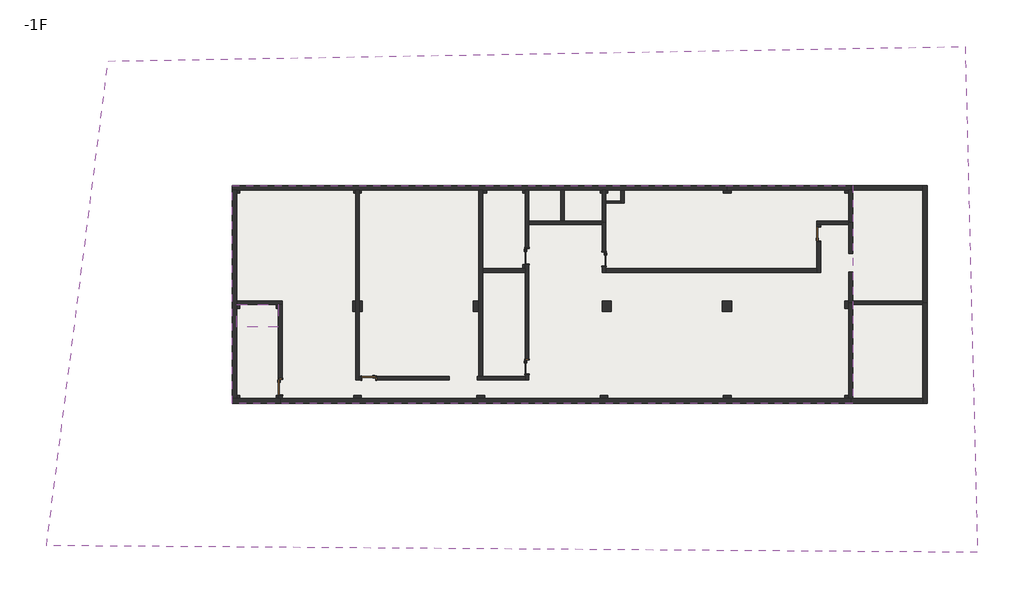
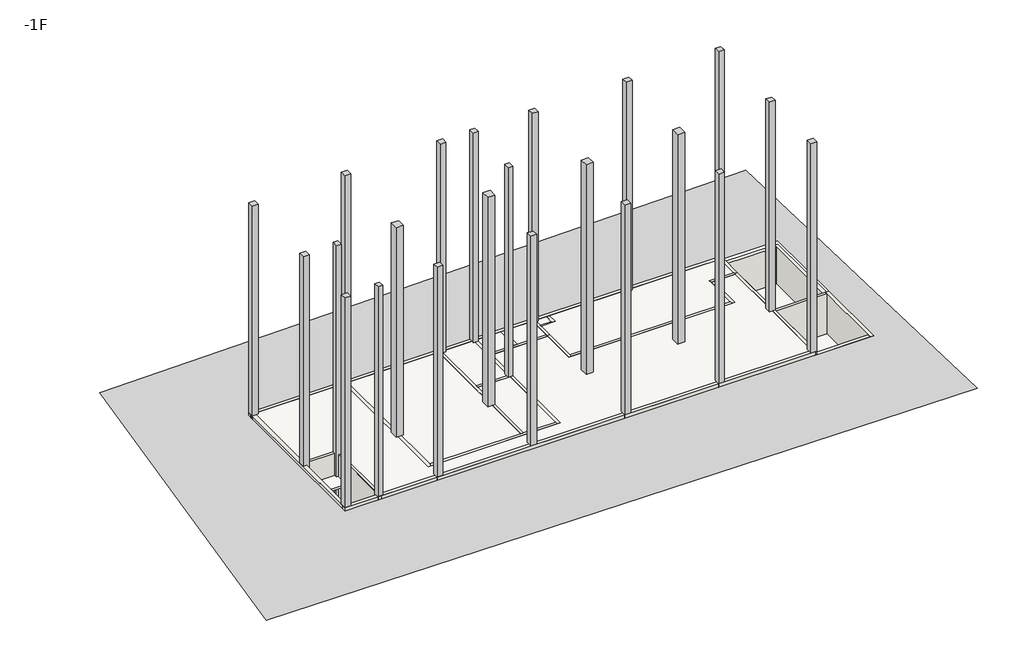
# One storey, incomplete: 29 walls, 22 columns, 6 doors, 3 slabs, 1 proxy.
"""IFC4 building model written with IfcOpenShell, lengths in millimetres."""

from ifc_helpers import new_model, si_unit, frame, origin, place, context, project, spatial, polyline, outline, extrude, faceted_brep, triangles, transform, mapped, element, save
from components import column_400_x_500_mm_eafb277b, column_500_x_500_mm_b83ffd69, column_600_x_700_mm_fc09930c, door_c5165c53, door_39c63271, door_eaa0aaae

model = new_model("IFC4")

# Units and contexts
model_context = context("Model", 3, world=origin())
ifc_project = project(units=[si_unit("LENGTHUNIT", "METRE", prefix="MILLI")], contexts=[model_context])

# Site, building, storey
site = spatial("IfcSite", under=ifc_project)
building = spatial("IfcBuilding", under=site)
storey = spatial("IfcBuildingStorey", under=building, Name="-1F", Elevation=-3900.0)

# Proxy
placement = place(None, origin())
element("IfcBuildingElementProxy", 1, Name="Building Element Proxy", at=placement, inside=storey, context=model_context, shape_type="Tessellation", body=[
    triangles([(-16930.7933075, 16965.0423798, -300.0000023), (-20928.0016479, -14503.8821411, -300.0000023), (39466.1724243, -14939.941571, -300.0000023), (38666.7281982, 17909.8370361, -300.0000023), (36219.5612915, 8888.8696426, -300.0000023), (36219.5612915, 1268.8696426, -300.0000023), (36219.5612915, -5251.1300583, -300.0000023), (31209.5624451, -5251.1300583, -300.0000023), (22339.7061768, -5251.1300583, -300.0000023), (-5760.4379242, -5251.1300583, -300.0000023), (-8880.4381805, -5251.1300583, -300.0000023), (-8880.4381805, 8888.8696426, -300.0000023), (-2654.9173073, 8888.8696426, -300.0000023)], [[2, 10, 11], [10, 2, 9], [2, 11, 12], [1, 12, 13], [12, 1, 2], [1, 13, 4], [8, 3, 7], [3, 8, 9], [7, 3, 6], [4, 13, 5], [4, 5, 6], [6, 3, 4], [3, 9, 2]], closed=False),
])

# Columns
column_400_x_500_mm_shape = column_400_x_500_mm_eafb277b(model_context)
element("IfcColumn", 2, ObjectType="预制-矩形柱 : 400 x 500 mm", at=placement, inside=storey, context=model_context, shape_type="MappedRepresentation", body=[
    mapped(column_400_x_500_mm_shape, transform((-5840.4379116, 1138.8697102, 0.0), x_axis=(1.0, 0.0, 0.0), y_axis=(0.0, 1.0, 0.0), z_axis=(0.0, 0.0, 1.0))),
])
element("IfcColumn", 3, ObjectType="预制-矩形柱 : 400 x 500 mm", at=placement, inside=storey, context=model_context, shape_type="MappedRepresentation", body=[
    mapped(column_400_x_500_mm_shape, transform((-5840.4379116, -5001.1302898, 0.0), x_axis=(1.0, 0.0, 0.0), y_axis=(0.0, 1.0, 0.0), z_axis=(0.0, 0.0, 1.0))),
])
element("IfcColumn", 4, ObjectType="预制-矩形柱 : 400 x 500 mm", at=placement, inside=storey, context=model_context, shape_type="MappedRepresentation", body=[
    mapped(column_400_x_500_mm_shape, transform((10159.5620884, 3498.8697102, 0.0), x_axis=(1.0, 0.0, 0.0), y_axis=(0.0, 1.0, 0.0), z_axis=(0.0, 0.0, 1.0))),
])
element("IfcColumn", 5, ObjectType="预制-矩形柱 : 400 x 500 mm", at=placement, inside=storey, context=model_context, shape_type="MappedRepresentation", body=[
    mapped(column_400_x_500_mm_shape, transform((10159.5620884, 8638.8697102, 0.0), x_axis=(1.0, 0.0, 0.0), y_axis=(0.0, 1.0, 0.0), z_axis=(0.0, 0.0, 1.0))),
])
column_500_x_500_mm_shape = column_500_x_500_mm_b83ffd69(model_context)
element("IfcColumn", 6, ObjectType="预制-矩形柱 : 500 x 500 mm", at=placement, inside=storey, context=model_context, shape_type="MappedRepresentation", body=[
    mapped(column_500_x_500_mm_shape, transform((-8630.4379116, 8638.8697102, 0.0), x_axis=(1.0, 0.0, 0.0), y_axis=(0.0, 1.0, 0.0), z_axis=(0.0, 0.0, 1.0))),
])
element("IfcColumn", 7, ObjectType="预制-矩形柱 : 500 x 500 mm", at=placement, inside=storey, context=model_context, shape_type="MappedRepresentation", body=[
    mapped(column_500_x_500_mm_shape, transform((-8630.4379116, 1138.8697102, 0.0), x_axis=(1.0, 0.0, 0.0), y_axis=(0.0, 1.0, 0.0), z_axis=(0.0, 0.0, 1.0))),
])
element("IfcColumn", 8, ObjectType="预制-矩形柱 : 500 x 500 mm", at=placement, inside=storey, context=model_context, shape_type="MappedRepresentation", body=[
    mapped(column_500_x_500_mm_shape, transform((-8630.4379116, -5001.1302898, 0.0), x_axis=(1.0, 0.0, 0.0), y_axis=(0.0, 1.0, 0.0), z_axis=(0.0, 0.0, 1.0))),
])
element("IfcColumn", 9, ObjectType="预制-矩形柱 : 500 x 500 mm", at=placement, inside=storey, context=model_context, shape_type="MappedRepresentation", body=[
    mapped(column_500_x_500_mm_shape, transform((-760.4379116, 8638.8697102, 0.0), x_axis=(1.0, 0.0, 0.0), y_axis=(0.0, 1.0, 0.0), z_axis=(0.0, 0.0, 1.0))),
])
element("IfcColumn", 10, ObjectType="预制-矩形柱 : 500 x 500 mm", at=placement, inside=storey, context=model_context, shape_type="MappedRepresentation", body=[
    mapped(column_500_x_500_mm_shape, transform((-760.4379116, -5001.1302898, 0.0), x_axis=(1.0, 0.0, 0.0), y_axis=(0.0, 1.0, 0.0), z_axis=(0.0, 0.0, 1.0))),
])
element("IfcColumn", 11, ObjectType="预制-矩形柱 : 500 x 500 mm", at=placement, inside=storey, context=model_context, shape_type="MappedRepresentation", body=[
    mapped(column_500_x_500_mm_shape, transform((7369.5620884, 8638.8697102, 0.0), x_axis=(1.0, 0.0, 0.0), y_axis=(0.0, 1.0, 0.0), z_axis=(0.0, 0.0, 1.0))),
])
element("IfcColumn", 12, ObjectType="预制-矩形柱 : 500 x 500 mm", at=placement, inside=storey, context=model_context, shape_type="MappedRepresentation", body=[
    mapped(column_500_x_500_mm_shape, transform((7239.5620884, -5001.1302898, 0.0), x_axis=(1.0, 0.0, 0.0), y_axis=(0.0, 1.0, 0.0), z_axis=(0.0, 0.0, 1.0))),
])
element("IfcColumn", 13, ObjectType="预制-矩形柱 : 500 x 500 mm", at=placement, inside=storey, context=model_context, shape_type="MappedRepresentation", body=[
    mapped(column_500_x_500_mm_shape, transform((15239.5620884, -5001.1302898, 0.0), x_axis=(1.0, 0.0, 0.0), y_axis=(0.0, 1.0, 0.0), z_axis=(0.0, 0.0, 1.0))),
])
element("IfcColumn", 14, ObjectType="预制-矩形柱 : 500 x 500 mm", at=placement, inside=storey, context=model_context, shape_type="MappedRepresentation", body=[
    mapped(column_500_x_500_mm_shape, transform((15239.5620884, 8638.8697102, 0.0), x_axis=(1.0, 0.0, 0.0), y_axis=(0.0, 1.0, 0.0), z_axis=(0.0, 0.0, 1.0))),
])
element("IfcColumn", 15, ObjectType="预制-矩形柱 : 500 x 500 mm", at=placement, inside=storey, context=model_context, shape_type="MappedRepresentation", body=[
    mapped(column_500_x_500_mm_shape, transform((23239.5620884, -5001.1302898, 0.0), x_axis=(1.0, 0.0, 0.0), y_axis=(0.0, 1.0, 0.0), z_axis=(0.0, 0.0, 1.0))),
])
element("IfcColumn", 16, ObjectType="预制-矩形柱 : 500 x 500 mm", at=placement, inside=storey, context=model_context, shape_type="MappedRepresentation", body=[
    mapped(column_500_x_500_mm_shape, transform((23239.5620884, 8638.8697102, 0.0), x_axis=(1.0, 0.0, 0.0), y_axis=(0.0, 1.0, 0.0), z_axis=(0.0, 0.0, 1.0))),
])
element("IfcColumn", 17, ObjectType="预制-矩形柱 : 500 x 500 mm", at=placement, inside=storey, context=model_context, shape_type="MappedRepresentation", body=[
    mapped(column_500_x_500_mm_shape, transform((31109.5620884, -5001.1302898, 0.0), x_axis=(1.0, 0.0, 0.0), y_axis=(0.0, 1.0, 0.0), z_axis=(0.0, 0.0, 1.0))),
])
element("IfcColumn", 18, ObjectType="预制-矩形柱 : 500 x 500 mm", at=placement, inside=storey, context=model_context, shape_type="MappedRepresentation", body=[
    mapped(column_500_x_500_mm_shape, transform((31109.5620884, 8638.8697102, 0.0), x_axis=(1.0, 0.0, 0.0), y_axis=(0.0, 1.0, 0.0), z_axis=(0.0, 0.0, 1.0))),
])
element("IfcColumn", 19, ObjectType="预制-矩形柱 : 500 x 500 mm", at=placement, inside=storey, context=model_context, shape_type="MappedRepresentation", body=[
    mapped(column_500_x_500_mm_shape, transform((31109.5620884, 1138.8697102, 0.0), x_axis=(1.0, 0.0, 0.0), y_axis=(0.0, 1.0, 0.0), z_axis=(0.0, 0.0, 1.0))),
])
column_600_x_700_mm_shape = column_600_x_700_mm_fc09930c(model_context)
element("IfcColumn", 20, ObjectType="预制-矩形柱 : 600 x 700 mm", at=placement, inside=storey, context=model_context, shape_type="MappedRepresentation", body=[
    mapped(column_600_x_700_mm_shape, transform((-760.4379116, 1038.8697102, 0.0), x_axis=(1.0, 0.0, 0.0), y_axis=(0.0, 1.0, 0.0), z_axis=(0.0, 0.0, 1.0))),
])
element("IfcColumn", 21, ObjectType="预制-矩形柱 : 600 x 700 mm", at=placement, inside=storey, context=model_context, shape_type="MappedRepresentation", body=[
    mapped(column_600_x_700_mm_shape, transform((7039.5620884, 1038.8697102, 0.0), x_axis=(1.0, 0.0, 0.0), y_axis=(0.0, 1.0, 0.0), z_axis=(0.0, 0.0, 1.0))),
])
element("IfcColumn", 22, ObjectType="预制-矩形柱 : 600 x 700 mm", at=placement, inside=storey, context=model_context, shape_type="MappedRepresentation", body=[
    mapped(column_600_x_700_mm_shape, transform((15419.5620884, 1038.8697102, 0.0), x_axis=(1.0, 0.0, 0.0), y_axis=(0.0, 1.0, 0.0), z_axis=(0.0, 0.0, 1.0))),
])
element("IfcColumn", 23, ObjectType="预制-矩形柱 : 600 x 700 mm", at=placement, inside=storey, context=model_context, shape_type="MappedRepresentation", body=[
    mapped(column_600_x_700_mm_shape, transform((23219.5620884, 1038.8697102, 0.0), x_axis=(1.0, 0.0, 0.0), y_axis=(0.0, 1.0, 0.0), z_axis=(0.0, 0.0, 1.0))),
])

# Doors
door_shape = door_c5165c53(model_context)
element("IfcDoor", 24, ObjectType="单扇平开木门1 : FM甲2", at=placement, inside=storey, context=model_context, shape_type="MappedRepresentation", body=[
    mapped(door_shape, transform((-5760.4379116, -4201.1302898, -3900.0), x_axis=(0.0, -1.0, 0.0), y_axis=(1.0, 0.0, 0.0), z_axis=(0.0, 0.0, 1.0))),
])
element("IfcDoor", 25, ObjectType="单扇平开木门1 : FM甲2", at=placement, inside=storey, context=model_context, shape_type="MappedRepresentation", body=[
    mapped(door_shape, transform((10239.5620884, 4298.8697102, -3900.0), x_axis=(0.0, -1.0, 0.0), y_axis=(1.0, 0.0, 0.0), z_axis=(0.0, 0.0, 1.0))),
])
door_2_shape = door_39c63271(model_context)
element("IfcDoor", 26, ObjectType="单扇平开木门1 : FM甲3", at=placement, inside=storey, context=model_context, shape_type="MappedRepresentation", body=[
    mapped(door_2_shape, transform((-20.4379116, -3631.1302898, -3900.0), x_axis=(-1.0, 0.0, 0.0), y_axis=(0.0, -1.0, 0.0), z_axis=(0.0, 0.0, 1.0))),
])
door_3_shape = door_eaa0aaae(model_context)
element("IfcDoor", 27, ObjectType="单扇平开木门1 : FM甲3", at=placement, inside=storey, context=model_context, shape_type="MappedRepresentation", body=[
    mapped(door_3_shape, transform((15239.5620884, 4108.8697102, -3900.0), x_axis=(0.0, -1.0, 0.0), y_axis=(1.0, 0.0, 0.0), z_axis=(0.0, 0.0, 1.0))),
])
element("IfcDoor", 28, ObjectType="单扇平开木门1 : FM甲3", at=placement, inside=storey, context=model_context, shape_type="MappedRepresentation", body=[
    mapped(door_3_shape, transform((29169.5620884, 5728.8697102, -3900.0), x_axis=(0.0, 1.0, 0.0), y_axis=(-1.0, 0.0, 0.0), z_axis=(0.0, 0.0, 1.0))),
])
element("IfcDoor", 29, ObjectType="单扇平开木门1 : M2", at=placement, inside=storey, context=model_context, shape_type="MappedRepresentation", body=[
    mapped(door_2_shape, transform((10239.5620884, -2891.1302898, -3900.0), x_axis=(0.0, -1.0, 0.0), y_axis=(1.0, 0.0, 0.0), z_axis=(0.0, 0.0, 1.0))),
])

# Slabs
element("IfcSlab", 30, ObjectType="常规 - 150mm", at=placement, inside=storey, context=model_context, shape_type="SweptSolid", body=[
    extrude(outline(polyline([(-8880.4379116, 8888.8697102), (31359.5620884, 8888.8697102), (31359.5620884, -5251.1302898), (-8880.4379116, -5251.1302898), (-8880.4379116, 8888.8697102)]), holes=[polyline([(-8640.4379116, 1148.8697102), (-8640.4379116, -5011.1302898), (-5880.4379116, -5011.1302898), (-5880.4379116, 1148.8697102), (-8640.4379116, 1148.8697102)])]), frame((0.0, 0.0, -150.0), z_axis=(0.0, 0.0, 1.0), x_axis=(1.0, 0.0, 0.0)), (0.0, 0.0, 1.0), 150.0),
])
element("IfcSlab", 31, ObjectType="建筑地坪 1", at=placement, inside=storey, context=model_context, shape_type="SweptSolid", body=[
    extrude(outline(polyline([(36219.5620884, 8888.8697102), (36219.5620884, 1268.8697102), (36219.5620884, -5251.1302898), (31209.5620884, -5251.1302898), (-5760.4379116, -5251.1302898), (-8880.4379116, -5251.1302898), (-8880.4379116, 8888.8697102), (36219.5620884, 8888.8697102)])), frame((0.0, 0.0, -4200.0), z_axis=(0.0, 0.0, 1.0), x_axis=(1.0, 0.0, 0.0)), (0.0, 0.0, 1.0), 300.0),
])
element("IfcSlab", 32, ObjectType="常规 - 150mm", at=placement, inside=storey, context=model_context, shape_type="SweptSolid", body=[
    extrude(outline(polyline([(-5880.4379116, -301.1302898), (-8580.4379116, -301.1302898), (-8580.4379116, 1148.8697102), (-5880.4379116, 1148.8697102), (-5880.4379116, -301.1302898)])), frame((0.0, 0.0, -2100.0), z_axis=(0.0, 0.0, 1.0), x_axis=(1.0, 0.0, 0.0)), (0.0, 0.0, 1.0), 150.0),
])

# Walls
element("IfcWall", 33, ObjectType="常规 - 300mm", at=placement, inside=storey, context=model_context, shape_type="Brep", body=[
    faceted_brep([(-8880.4379116, 8588.8697102, -3900.0), (-8580.4379116, 8588.8697102, -3900.0), (23209.5620884, 8588.8697102, -3900.0), (23209.5620884, 8588.8697102, 0.0), (-8580.4379116, 8588.8697102, 0.0), (-8880.4379116, 8588.8697102, 0.0), (-8880.4379116, 8888.8697102, -3900.0), (-8880.4379116, 8888.8697102, 0.0), (23209.5620884, 8888.8697102, 0.0), (23209.5620884, 8888.8697102, -3900.0)], [[[0, 1, 2, 3, 4, 5]], [[6, 7, 8, 9]], [[2, 1, 0, 6, 9]], [[3, 2, 9, 8]], [[5, 4, 3, 8, 7]], [[0, 5, 7, 6]]]),
])
element("IfcWall", 34, ObjectType="常规 - 300mm", at=placement, inside=storey, context=model_context, shape_type="Brep", body=[
    faceted_brep([(35919.5620884, 1268.8697102, -3900.0), (35919.5620884, -4951.1302898, -3900.0), (35919.5620884, -5251.1302898, -3900.0), (35919.5620884, -5251.1302898, -300.0), (35919.5620884, -4951.1302898, -300.0), (35919.5620884, 1388.8697102, -300.0), (35919.5620884, 1388.8697102, -600.0), (35919.5620884, 1268.8697102, -600.0), (36219.5620884, 1268.8697102, -3900.0), (36219.5620884, 1268.8697102, -600.0), (36219.5620884, 1388.8697102, -600.0), (36219.5620884, 1388.8697102, -300.0), (36219.5620884, -5251.1302898, -300.0), (36219.5620884, -5251.1302898, -3900.0)], [[[0, 1, 2, 3, 4, 5, 6, 7]], [[8, 9, 10, 11, 12, 13]], [[2, 1, 0, 8, 13]], [[5, 4, 3, 12, 11]], [[3, 2, 13, 12]], [[0, 7, 9, 8]], [[6, 10, 9, 7]], [[6, 5, 11, 10]]]),
])
element("IfcWall", 35, ObjectType="常规 - 300mm", at=placement, inside=storey, context=model_context, shape_type="SweptSolid", body=[
    extrude(outline(polyline([(-8580.4379116, 8588.8697102), (-8580.4379116, -4951.1302898), (-8880.4379116, -4951.1302898), (-8880.4379116, 8588.8697102), (-8580.4379116, 8588.8697102)])), frame((0.0, 0.0, -3900.0), z_axis=(0.0, 0.0, 1.0), x_axis=(1.0, 0.0, 0.0)), (0.0, 0.0, 1.0), 3900.0),
])
element("IfcWall", 36, ObjectType="常规 - 240mm 2", at=placement, inside=storey, context=model_context, shape_type="Brep", body=[
    faceted_brep([(-8580.4379116, 1148.8697102, -3900.0), (-5880.4379116, 1148.8697102, -3900.0), (-5640.4379116, 1148.8697102, -3900.0), (-5640.4379116, 1148.8697102, 0.0), (-5880.4379116, 1148.8697102, 0.0), (-8580.4379116, 1148.8697102, 0.0), (-8580.4379116, 1388.8697102, -3900.0), (-8580.4379116, 1388.8697102, 0.0), (-5880.4379116, 1388.8697102, 0.0), (-5640.4379116, 1388.8697102, 0.0), (-5640.4379116, 1388.8697102, -3900.0)], [[[0, 1, 2, 3, 4, 5]], [[6, 7, 8, 9, 10]], [[2, 1, 0, 6, 10]], [[5, 4, 3, 9, 8, 7]], [[0, 5, 7, 6]], [[3, 2, 10, 9]]]),
])
element("IfcWall", 37, ObjectType="常规 - 240mm 2", at=placement, inside=storey, context=model_context, shape_type="SweptSolid", body=[
    extrude(outline(polyline([(-4951.1302898, 0.0), (1148.8697102, 0.0), (1148.8697102, -3900.0), (-3651.1302898, -3900.0), (-3651.1302898, -1500.0), (-4751.1302898, -1500.0), (-4751.1302898, -3900.0), (-4951.1302898, -3900.0), (-4951.1302898, 0.0)])), frame((-5880.4379116, 0.0, 0.0), z_axis=(1.0, 0.0, 0.0), x_axis=(0.0, 1.0, 0.0)), (0.0, 0.0, 1.0), 240.0),
])
element("IfcWall", 38, ObjectType="常规 - 240mm 2", at=placement, inside=storey, context=model_context, shape_type="Brep", body=[
    faceted_brep([(-880.4379116, 8588.8697102, -3900.0), (-880.4379116, -3751.1302898, -3900.0), (-880.4379116, -3751.1302898, 0.0), (-880.4379116, 8588.8697102, 0.0), (-640.4379116, 8588.8697102, -3900.0), (-640.4379116, 8588.8697102, 0.0), (-640.4379116, -3511.1302898, 0.0), (-640.4379116, -3751.1302898, 0.0), (-640.4379116, -3751.1302898, -3900.0), (-640.4379116, -3511.1302898, -3900.0)], [[[0, 1, 2, 3]], [[4, 5, 6, 7, 8, 9]], [[1, 0, 4, 9, 8]], [[3, 2, 7, 6, 5]], [[0, 3, 5, 4]], [[2, 1, 8, 7]]]),
])
element("IfcWall", 39, ObjectType="常规 - 240mm 2", at=placement, inside=storey, context=model_context, shape_type="Brep", body=[
    faceted_brep([(10119.5620884, -3751.1302898, 0.0), (-640.4379116, -3751.1302898, 0.0), (-640.4379116, -3751.1302898, -3900.0), (-520.4379116, -3751.1302898, -3900.0), (-520.4379116, -3751.1302898, -1500.0), (479.5620884, -3751.1302898, -1500.0), (479.5620884, -3751.1302898, -3900.0), (5199.5620884, -3751.1302898, -3900.0), (5199.5620884, -3751.1302898, -1500.0), (6999.5620884, -3751.1302898, -1500.0), (6999.5620884, -3751.1302898, -3900.0), (10119.5620884, -3751.1302898, -3900.0), (-640.4379116, -3511.1302898, 0.0), (7119.5620884, -3511.1302898, 0.0), (7359.5620884, -3511.1302898, 0.0), (10119.5620884, -3511.1302898, 0.0), (10119.5620884, -3511.1302898, -3900.0), (7359.5620884, -3511.1302898, -3900.0), (7119.5620884, -3511.1302898, -3900.0), (6999.5620884, -3511.1302898, -3900.0), (6999.5620884, -3511.1302898, -1500.0), (5199.5620884, -3511.1302898, -1500.0), (5199.5620884, -3511.1302898, -3900.0), (479.5620884, -3511.1302898, -3900.0), (479.5620884, -3511.1302898, -1500.0), (-520.4379116, -3511.1302898, -1500.0), (-520.4379116, -3511.1302898, -3900.0), (-640.4379116, -3511.1302898, -3900.0)], [[[0, 1, 2, 3, 4, 5, 6, 7, 8, 9, 10, 11]], [[12, 13, 14, 15, 16, 17, 18, 19, 20, 21, 22, 23, 24, 25, 26, 27]], [[2, 27, 26, 3]], [[16, 11, 10, 19, 18, 17]], [[22, 7, 6, 23]], [[1, 0, 15, 14, 13, 12]], [[2, 1, 12, 27]], [[0, 11, 16, 15]], [[9, 20, 19, 10]], [[20, 9, 8, 21]], [[21, 8, 7, 22]], [[25, 4, 3, 26]], [[4, 25, 24, 5]], [[5, 24, 23, 6]]]),
])
element("IfcWall", 40, ObjectType="常规 - 240mm 2", at=placement, inside=storey, context=model_context, shape_type="Brep", body=[
    faceted_brep([(7359.5620884, -3511.1302898, -3900.0), (7359.5620884, 3248.8697102, -3900.0), (7359.5620884, 3488.8697102, -3900.0), (7359.5620884, 8588.8697102, -3900.0), (7359.5620884, 8588.8697102, 0.0), (7359.5620884, 3488.8697102, 0.0), (7359.5620884, 3248.8697102, 0.0), (7359.5620884, -3511.1302898, 0.0), (7119.5620884, -3511.1302898, -3900.0), (7119.5620884, -3511.1302898, 0.0), (7119.5620884, 8588.8697102, 0.0), (7119.5620884, 8588.8697102, -3900.0)], [[[0, 1, 2, 3, 4, 5, 6, 7]], [[8, 9, 10, 11]], [[3, 2, 1, 0, 8, 11]], [[7, 6, 5, 4, 10, 9]], [[0, 7, 9, 8]], [[4, 3, 11, 10]]]),
])
element("IfcWall", 41, ObjectType="常规 - 240mm 2", at=placement, inside=storey, context=model_context, shape_type="Brep", body=[
    faceted_brep([(10119.5620884, -3751.1302898, 0.0), (10119.5620884, -3511.1302898, 0.0), (10119.5620884, 3248.8697102, 0.0), (10119.5620884, 3488.8697102, 0.0), (10119.5620884, 8588.8697102, 0.0), (10119.5620884, 8588.8697102, -3900.0), (10119.5620884, 4848.8697102, -3900.0), (10119.5620884, 4848.8697102, -1500.0), (10119.5620884, 3748.8697102, -1500.0), (10119.5620884, 3748.8697102, -3900.0), (10119.5620884, 3488.8697102, -3900.0), (10119.5620884, 3248.8697102, -3900.0), (10119.5620884, -2391.1302898, -3900.0), (10119.5620884, -2391.1302898, -1500.0), (10119.5620884, -3391.1302898, -1500.0), (10119.5620884, -3391.1302898, -3900.0), (10119.5620884, -3511.1302898, -3900.0), (10119.5620884, -3751.1302898, -3900.0), (10359.5620884, 8588.8697102, 0.0), (10359.5620884, 6588.8697102, 0.0), (10359.5620884, 6348.8697102, 0.0), (10359.5620884, -3751.1302898, 0.0), (10359.5620884, -3751.1302898, -3900.0), (10359.5620884, -3391.1302898, -3900.0), (10359.5620884, -3391.1302898, -1500.0), (10359.5620884, -2391.1302898, -1500.0), (10359.5620884, -2391.1302898, -3900.0), (10359.5620884, 3748.8697102, -3900.0), (10359.5620884, 3748.8697102, -1500.0), (10359.5620884, 4848.8697102, -1500.0), (10359.5620884, 4848.8697102, -3900.0), (10359.5620884, 6348.8697102, -3900.0), (10359.5620884, 6588.8697102, -3900.0), (10359.5620884, 8588.8697102, -3900.0)], [[[0, 1, 2, 3, 4, 5, 6, 7, 8, 9, 10, 11, 12, 13, 14, 15, 16, 17]], [[18, 19, 20, 21, 22, 23, 24, 25, 26, 27, 28, 29, 30, 31, 32, 33]], [[5, 33, 32, 31, 30, 6]], [[22, 17, 16, 15, 23]], [[9, 27, 26, 12, 11, 10]], [[4, 3, 2, 1, 0, 21, 20, 19, 18]], [[5, 4, 18, 33]], [[0, 17, 22, 21]], [[9, 8, 28, 27]], [[8, 7, 29, 28]], [[7, 6, 30, 29]], [[14, 24, 23, 15]], [[24, 14, 13, 25]], [[25, 13, 12, 26]]]),
])
element("IfcWall", 42, ObjectType="常规 - 240mm 2", at=placement, inside=storey, context=model_context, shape_type="SweptSolid", body=[
    extrude(outline(polyline([(10119.5620884, 3248.8697102), (7359.5620884, 3248.8697102), (7359.5620884, 3488.8697102), (10119.5620884, 3488.8697102), (10119.5620884, 3248.8697102)])), frame((0.0, 0.0, -3900.0), z_axis=(0.0, 0.0, 1.0), x_axis=(1.0, 0.0, 0.0)), (0.0, 0.0, 1.0), 3900.0),
])
element("IfcWall", 43, ObjectType="常规 - 240mm 2", at=placement, inside=storey, context=model_context, shape_type="Brep", body=[
    faceted_brep([(10359.5620884, 6348.8697102, -3900.0), (15119.5620884, 6348.8697102, -3900.0), (15119.5620884, 6348.8697102, 0.0), (10359.5620884, 6348.8697102, 0.0), (10359.5620884, 6588.8697102, -3900.0), (10359.5620884, 6588.8697102, 0.0), (12419.5620884, 6588.8697102, 0.0), (12659.5620884, 6588.8697102, 0.0), (15119.5620884, 6588.8697102, 0.0), (15119.5620884, 6588.8697102, -3900.0), (12659.5620884, 6588.8697102, -3900.0), (12419.5620884, 6588.8697102, -3900.0), (15119.5620884, 6468.8697102, -3900.0), (15119.5620884, 6468.8697102, 0.0)], [[[0, 1, 2, 3]], [[4, 5, 6, 7, 8, 9, 10, 11]], [[1, 0, 4, 11, 10, 9, 12]], [[3, 2, 13, 8, 7, 6, 5]], [[0, 3, 5, 4]], [[2, 1, 12, 9, 8, 13]]]),
])
element("IfcWall", 44, ObjectType="常规 - 240mm 2", at=placement, inside=storey, context=model_context, shape_type="Brep", body=[
    faceted_brep([(15359.5620884, 6468.8697102, -3900.0), (15359.5620884, 6468.8697102, 0.0), (15359.5620884, 3488.8697102, 0.0), (15359.5620884, 3248.8697102, 0.0), (15359.5620884, 3248.8697102, -3900.0), (15359.5620884, 3488.8697102, -3900.0), (15359.5620884, 3608.8697102, -3900.0), (15359.5620884, 3608.8697102, -1500.0), (15359.5620884, 4608.8697102, -1500.0), (15359.5620884, 4608.8697102, -3900.0), (15119.5620884, 6468.8697102, 0.0), (15119.5620884, 6468.8697102, -3900.0), (15119.5620884, 6348.8697102, -3900.0), (15119.5620884, 4608.8697102, -3900.0), (15119.5620884, 4608.8697102, -1500.0), (15119.5620884, 3608.8697102, -1500.0), (15119.5620884, 3608.8697102, -3900.0), (15119.5620884, 3248.8697102, -3900.0), (15119.5620884, 3248.8697102, 0.0), (15119.5620884, 6348.8697102, 0.0)], [[[0, 1, 2, 3, 4, 5, 6, 7, 8, 9]], [[10, 11, 12, 13, 14, 15, 16, 17, 18, 19]], [[4, 17, 16, 6, 5]], [[11, 0, 9, 13, 12]], [[1, 0, 11, 10]], [[3, 2, 1, 10, 19, 18]], [[4, 3, 18, 17]], [[15, 7, 6, 16]], [[7, 15, 14, 8]], [[8, 14, 13, 9]]]),
])
element("IfcWall", 45, ObjectType="常规 - 240mm 2", at=placement, inside=storey, context=model_context, shape_type="SweptSolid", body=[
    extrude(outline(polyline([(12419.5620884, 6588.8697102), (12419.5620884, 8588.8697102), (12659.5620884, 8588.8697102), (12659.5620884, 6588.8697102), (12419.5620884, 6588.8697102)])), frame((0.0, 0.0, -3900.0), z_axis=(0.0, 0.0, 1.0), x_axis=(1.0, 0.0, 0.0)), (0.0, 0.0, 1.0), 3900.0),
])
element("IfcWall", 46, ObjectType="常规 - 240mm 2", at=placement, inside=storey, context=model_context, shape_type="Brep", body=[
    faceted_brep([(31359.5620884, 1148.8697102, -3900.0), (35919.5620884, 1148.8697102, -3900.0), (35919.5620884, 1148.8697102, -300.0), (31359.5620884, 1148.8697102, -300.0), (31359.5620884, 1388.8697102, -3900.0), (31359.5620884, 1388.8697102, -300.0), (35919.5620884, 1388.8697102, -300.0), (35919.5620884, 1388.8697102, -3900.0), (31359.5620884, 1268.8697102, -3900.0)], [[[0, 1, 2, 3]], [[4, 5, 6, 7]], [[1, 0, 8, 4, 7]], [[3, 2, 6, 5]], [[0, 3, 5, 4, 8]], [[1, 7, 6, 2]]]),
])
element("IfcWall", 47, ObjectType="常规 - 240mm 2", at=placement, inside=storey, context=model_context, shape_type="Brep", body=[
    faceted_brep([(31119.5620884, 8588.8697102, 0.0), (31119.5620884, 8588.8697102, -3900.0), (31119.5620884, 6588.8697102, -3900.0), (31119.5620884, 6468.8697102, -3900.0), (31119.5620884, 6468.8697102, 0.0), (31119.5620884, 6588.8697102, 0.0), (31359.5620884, 8588.8697102, -3900.0), (31359.5620884, 8588.8697102, 0.0), (31359.5620884, 6468.8697102, 0.0), (31359.5620884, 6468.8697102, -3900.0)], [[[0, 1, 2, 3, 4, 5]], [[6, 7, 8, 9]], [[3, 2, 1, 6, 9]], [[4, 3, 9, 8]], [[0, 5, 4, 8, 7]], [[0, 7, 6, 1]]]),
])
element("IfcWall", 48, ObjectType="常规 - 300mm", at=placement, inside=storey, context=model_context, shape_type="Brep", body=[
    faceted_brep([(35919.5620884, 8888.8697102, -3900.0), (35919.5620884, 8588.8697102, -3900.0), (35919.5620884, 1268.8697102, -3900.0), (35919.5620884, 1268.8697102, -600.0), (35919.5620884, 1388.8697102, -600.0), (35919.5620884, 8588.8697102, -600.0), (35919.5620884, 8888.8697102, -600.0), (36219.5620884, 8888.8697102, -3900.0), (36219.5620884, 8888.8697102, -600.0), (36219.5620884, 1388.8697102, -600.0), (36219.5620884, 1268.8697102, -600.0), (36219.5620884, 1268.8697102, -3900.0)], [[[0, 1, 2, 3, 4, 5, 6]], [[7, 8, 9, 10, 11]], [[2, 1, 0, 7, 11]], [[3, 2, 11, 10]], [[6, 5, 4, 3, 10, 9, 8]], [[0, 6, 8, 7]]]),
])
element("IfcWall", 49, ObjectType="常规 - 240mm 2", at=placement, inside=storey, context=model_context, shape_type="SweptSolid", body=[
    extrude(outline(polyline([(29049.5620884, 3248.8697102), (15359.5620884, 3248.8697102), (15359.5620884, 3488.8697102), (29049.5620884, 3488.8697102), (29049.5620884, 3248.8697102)])), frame((0.0, 0.0, -3900.0), z_axis=(0.0, 0.0, 1.0), x_axis=(1.0, 0.0, 0.0)), (0.0, 0.0, 1.0), 3900.0),
])
element("IfcWall", 50, ObjectType="常规 - 240mm 2", at=placement, inside=storey, context=model_context, shape_type="Brep", body=[
    faceted_brep([(15359.5620884, 6468.8697102, -3900.0), (15359.5620884, 7748.8697102, -3900.0), (15359.5620884, 7868.8697102, -3900.0), (15359.5620884, 8588.8697102, -3900.0), (15359.5620884, 8588.8697102, 0.0), (15359.5620884, 7868.8697102, 0.0), (15359.5620884, 7748.8697102, 0.0), (15359.5620884, 6468.8697102, 0.0), (15119.5620884, 6468.8697102, -3900.0), (15119.5620884, 6468.8697102, 0.0), (15119.5620884, 6588.8697102, 0.0), (15119.5620884, 8588.8697102, 0.0), (15119.5620884, 8588.8697102, -3900.0), (15119.5620884, 6588.8697102, -3900.0)], [[[0, 1, 2, 3, 4, 5, 6, 7]], [[8, 9, 10, 11, 12, 13]], [[3, 2, 1, 0, 8, 13, 12]], [[7, 6, 5, 4, 11, 10, 9]], [[0, 7, 9, 8]], [[4, 3, 12, 11]]]),
])
element("IfcWall", 51, ObjectType="常规 - 240mm 2", at=placement, inside=storey, context=model_context, shape_type="Brep", body=[
    faceted_brep([(29049.5620884, 3248.8697102, 0.0), (29049.5620884, 3488.8697102, 0.0), (29049.5620884, 6348.8697102, 0.0), (29049.5620884, 6348.8697102, -3900.0), (29049.5620884, 6228.8697102, -3900.0), (29049.5620884, 6228.8697102, -1500.0), (29049.5620884, 5228.8697102, -1500.0), (29049.5620884, 5228.8697102, -3900.0), (29049.5620884, 3488.8697102, -3900.0), (29049.5620884, 3248.8697102, -3900.0), (29289.5620884, 6348.8697102, 0.0), (29289.5620884, 3248.8697102, 0.0), (29289.5620884, 3248.8697102, -3900.0), (29289.5620884, 5228.8697102, -3900.0), (29289.5620884, 5228.8697102, -1500.0), (29289.5620884, 6228.8697102, -1500.0), (29289.5620884, 6228.8697102, -3900.0), (29289.5620884, 6348.8697102, -3900.0)], [[[0, 1, 2, 3, 4, 5, 6, 7, 8, 9]], [[10, 11, 12, 13, 14, 15, 16, 17]], [[12, 9, 8, 7, 13]], [[3, 17, 16, 4]], [[2, 1, 0, 11, 10]], [[0, 9, 12, 11]], [[3, 2, 10, 17]], [[15, 5, 4, 16]], [[5, 15, 14, 6]], [[6, 14, 13, 7]]]),
])
element("IfcWall", 52, ObjectType="常规 - 240mm 2", at=placement, inside=storey, context=model_context, shape_type="Brep", body=[
    faceted_brep([(29049.5620884, 6348.8697102, -3900.0), (29289.5620884, 6348.8697102, -3900.0), (31119.5620884, 6348.8697102, -3900.0), (31119.5620884, 6348.8697102, 0.0), (29289.5620884, 6348.8697102, 0.0), (29049.5620884, 6348.8697102, 0.0), (29049.5620884, 6588.8697102, -3900.0), (29049.5620884, 6588.8697102, 0.0), (31119.5620884, 6588.8697102, 0.0), (31119.5620884, 6588.8697102, -3900.0), (31119.5620884, 6468.8697102, -3900.0), (31119.5620884, 6468.8697102, 0.0)], [[[0, 1, 2, 3, 4, 5]], [[6, 7, 8, 9]], [[2, 1, 0, 6, 9, 10]], [[5, 4, 3, 11, 8, 7]], [[3, 2, 10, 9, 8, 11]], [[0, 5, 7, 6]]]),
])
element("IfcWall", 53, ObjectType="常规 - 240mm 2", at=placement, inside=storey, context=model_context, shape_type="Brep", body=[
    faceted_brep([(16559.5620884, 7748.8697102, -3900.0), (16559.5620884, 8588.8697102, -3900.0), (16559.5620884, 8588.8697102, 0.0), (16559.5620884, 7748.8697102, 0.0), (16319.5620884, 7748.8697102, -3900.0), (16319.5620884, 7748.8697102, 0.0), (16319.5620884, 7868.8697102, 0.0), (16319.5620884, 8588.8697102, 0.0), (16319.5620884, 8588.8697102, -3900.0), (16319.5620884, 7868.8697102, -3900.0)], [[[0, 1, 2, 3]], [[4, 5, 6, 7, 8, 9]], [[1, 0, 4, 9, 8]], [[3, 2, 7, 6, 5]], [[2, 1, 8, 7]], [[0, 3, 5, 4]]]),
])
element("IfcWall", 54, ObjectType="常规 - 120mm", at=placement, inside=storey, context=model_context, shape_type="SweptSolid", body=[
    extrude(outline(polyline([(16319.5620884, 7748.8697102), (15359.5620884, 7748.8697102), (15359.5620884, 7868.8697102), (16319.5620884, 7868.8697102), (16319.5620884, 7748.8697102)])), frame((0.0, 0.0, -3900.0), z_axis=(0.0, 0.0, 1.0), x_axis=(1.0, 0.0, 0.0)), (0.0, 0.0, 1.0), 3900.0),
])
element("IfcWall", 55, ObjectType="常规 - 240mm 2", at=placement, inside=storey, context=model_context, shape_type="Brep", body=[
    faceted_brep([(31119.5620884, 1268.8697102, 0.0), (31119.5620884, 6348.8697102, 0.0), (31119.5620884, 6468.8697102, 0.0), (31119.5620884, 6468.8697102, -3900.0), (31119.5620884, 6348.8697102, -3900.0), (31119.5620884, 4468.8697102, -3900.0), (31119.5620884, 4468.8697102, -1500.0), (31119.5620884, 3268.8697102, -1500.0), (31119.5620884, 3268.8697102, -3900.0), (31119.5620884, 1268.8697102, -3900.0), (31359.5620884, 6468.8697102, 0.0), (31359.5620884, 1268.8697102, 0.0), (31359.5620884, 1268.8697102, -3900.0), (31359.5620884, 1388.8697102, -3900.0), (31359.5620884, 3268.8697102, -3900.0), (31359.5620884, 3268.8697102, -1500.0), (31359.5620884, 4468.8697102, -1500.0), (31359.5620884, 4468.8697102, -3900.0), (31359.5620884, 6468.8697102, -3900.0)], [[[0, 1, 2, 3, 4, 5, 6, 7, 8, 9]], [[10, 11, 12, 13, 14, 15, 16, 17, 18]], [[3, 18, 17, 5, 4]], [[12, 9, 8, 14, 13]], [[2, 1, 0, 11, 10]], [[3, 2, 10, 18]], [[9, 12, 11, 0]], [[7, 15, 14, 8]], [[15, 7, 6, 16]], [[16, 6, 5, 17]]]),
])
element("IfcWall", 56, ObjectType="常规 - 240mm 2", at=placement, inside=storey, context=model_context, shape_type="Brep", body=[
    faceted_brep([(31119.5620884, 1268.8697102, 0.0), (31119.5620884, 1268.8697102, -3900.0), (31119.5620884, -4951.1302898, -3900.0), (31119.5620884, -4951.1302898, 0.0), (31359.5620884, 1268.8697102, -3900.0), (31359.5620884, 1268.8697102, 0.0), (31359.5620884, -4951.1302898, 0.0), (31359.5620884, -4951.1302898, -3900.0), (31359.5620884, 1148.8697102, -3900.0), (31239.5620884, -4951.1302898, 0.0)], [[[0, 1, 2, 3]], [[4, 5, 6, 7, 8]], [[2, 1, 4, 8, 7]], [[0, 3, 9, 6, 5]], [[0, 5, 4, 1]], [[2, 7, 6, 9, 3]]]),
])
element("IfcWall", 57, ObjectType="常规 - 300mm", at=placement, inside=storey, context=model_context, shape_type="Brep", body=[
    faceted_brep([(-5760.4379116, -4951.1302898, -3900.0), (-8580.4379116, -4951.1302898, -3900.0), (-8880.4379116, -4951.1302898, -3900.0), (-8880.4379116, -4951.1302898, 0.0), (-8580.4379116, -4951.1302898, 0.0), (-5760.4379116, -4951.1302898, 0.0), (-5760.4379116, -5251.1302898, -3900.0), (-5760.4379116, -5251.1302898, 0.0), (-8880.4379116, -5251.1302898, 0.0), (-8880.4379116, -5251.1302898, -3900.0)], [[[0, 1, 2, 3, 4, 5]], [[6, 7, 8, 9]], [[2, 1, 0, 6, 9]], [[5, 4, 3, 8, 7]], [[0, 5, 7, 6]], [[3, 2, 9, 8]]]),
])
element("IfcWall", 58, ObjectType="常规 - 300mm", at=placement, inside=storey, context=model_context, shape_type="SweptSolid", body=[
    extrude(outline(polyline([(31239.5620884, -4951.1302898), (35919.5620884, -4951.1302898), (35919.5620884, -5251.1302898), (31239.5620884, -5251.1302898), (31239.5620884, -4951.1302898)])), frame((0.0, 0.0, -3900.0), z_axis=(0.0, 0.0, 1.0), x_axis=(1.0, 0.0, 0.0)), (0.0, 0.0, 1.0), 3600.0),
])
element("IfcWall", 59, ObjectType="常规 - 300mm", at=placement, inside=storey, context=model_context, shape_type="Brep", body=[
    faceted_brep([(31239.5620884, -4951.1302898, 0.0), (31239.5620884, -4951.1302898, -300.0), (31239.5620884, -4951.1302898, -3900.0), (-5760.4379116, -4951.1302898, -3900.0), (-5760.4379116, -4951.1302898, 0.0), (31239.5620884, -5251.1302898, -3900.0), (31239.5620884, -5251.1302898, -300.0), (31239.5620884, -5251.1302898, 0.0), (-5760.4379116, -5251.1302898, 0.0), (-5760.4379116, -5251.1302898, -3900.0)], [[[0, 1, 2, 3, 4]], [[5, 6, 7, 8, 9]], [[3, 2, 5, 9]], [[4, 3, 9, 8]], [[0, 4, 8, 7]], [[0, 7, 6, 5, 2, 1]]]),
])
element("IfcWall", 60, ObjectType="常规 - 300mm", at=placement, inside=storey, context=model_context, shape_type="Brep", body=[
    faceted_brep([(31239.5620884, 8588.8697102, -3900.0), (35919.5620884, 8588.8697102, -3900.0), (35919.5620884, 8588.8697102, -600.0), (31359.5620884, 8588.8697102, -600.0), (31239.5620884, 8588.8697102, -600.0), (31239.5620884, 8888.8697102, -3900.0), (31239.5620884, 8888.8697102, -600.0), (31359.5620884, 8888.8697102, -600.0), (35919.5620884, 8888.8697102, -600.0), (35919.5620884, 8888.8697102, -3900.0)], [[[0, 1, 2, 3, 4]], [[5, 6, 7, 8, 9]], [[1, 0, 5, 9]], [[4, 3, 2, 8, 7, 6]], [[0, 4, 6, 5]], [[2, 1, 9, 8]]]),
])
element("IfcWall", 61, ObjectType="常规 - 300mm", at=placement, inside=storey, context=model_context, shape_type="SweptSolid", body=[
    extrude(outline(polyline([(-3900.0, 23209.5620884), (-3900.0, 31239.5620884), (-600.0, 31239.5620884), (-600.0, 31359.5620884), (0.0, 31359.5620884), (0.0, 23209.5620884), (-3900.0, 23209.5620884)])), frame((0.0, 8588.8697102, 0.0), z_axis=(0.0, 1.0, 0.0), x_axis=(0.0, 0.0, 1.0)), (0.0, 0.0, 1.0), 300.0),
])

save(model, "model.ifc")
